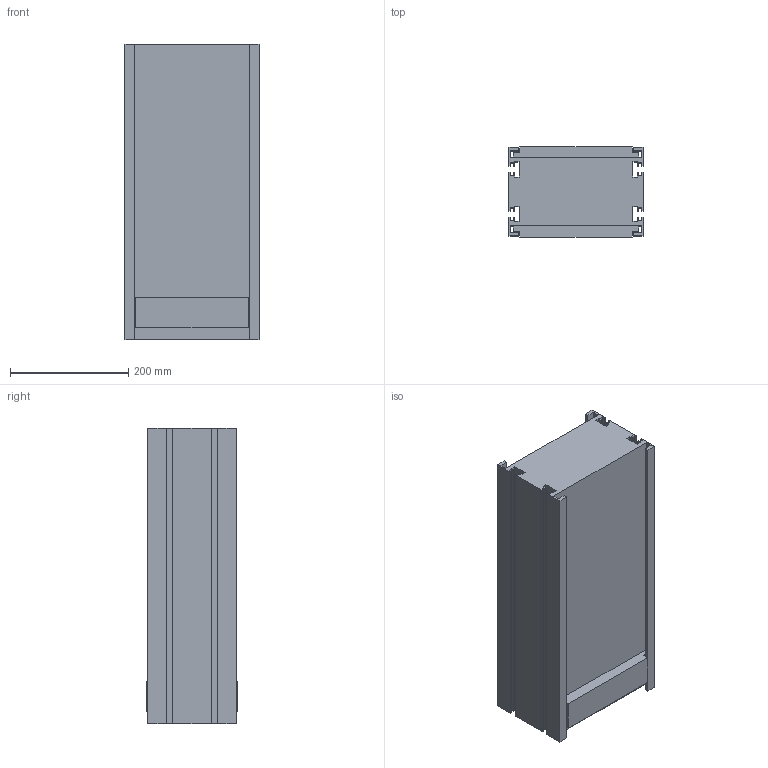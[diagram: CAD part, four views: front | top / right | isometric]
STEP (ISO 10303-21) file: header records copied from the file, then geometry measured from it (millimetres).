
FILE_DESCRIPTION (( 'STEP AP203' ), '1' );
FILE_NAME ('F2-7500-D500.STEP', '2009-01-23T09:37:41', ( 'faber' ), ( '' ), 'SwSTEP 2.0', 'SolidWorks 2008', '' );
FILE_SCHEMA (( 'CONFIG_CONTROL_DESIGN' ));
Length unit declared in the file: millimetre
Products named in the file (3): Poutre_750; Tapis_750; F2-7500-D500
Assembly tree (3 placements, depth 2):
  F2-7500-D500
    Tapis_750  x2
    Poutre_750
Bounding box: 227 x 152.88 x 500 mm (x, y, z)
Volume: 13019878.6 mm3; surface area: 748580.2 mm2
Topology: 3 solids, 3 shells, 106 faces, 300 edges, 200 vertices
Faces by surface type: plane 106
Entity records: 3417 total; most frequent: CARTESIAN_POINT 562, ORIENTED_EDGE 552, DIRECTION 480, EDGE_CURVE 276, VECTOR 276, LINE 276, VERTEX_POINT 184, AXIS2_PLACEMENT_3D 102
